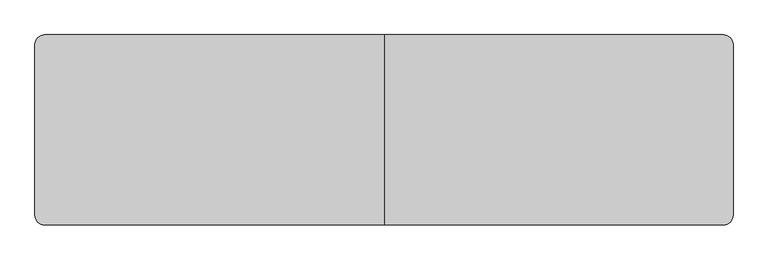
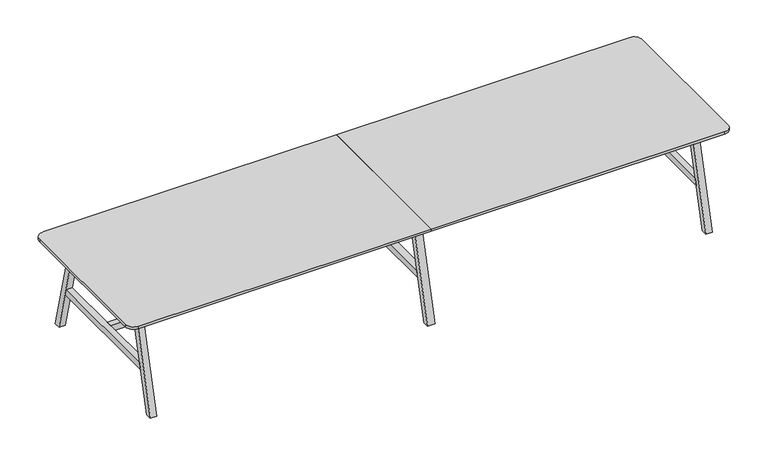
"""IFC4 building model written with IfcOpenShell, lengths in millimetres: furniture geometry, BDG_BossDesign_Tbls_AgentTables6Legs : AGE-DT-6L-4400-1200-3D."""

from ifc_helpers import new_model, si_unit, point, frame, frame_2d, origin, place, context, project, spatial, polyline, circle_curve, trimmed, segment, composite_curve, outline, extrude, source, transform, mapped, element, save


def furniture_8cfd374d(model_context):
    return source(origin(), model_context, "Body", "SweptSolid", [
        extrude(outline(polyline([(600.0, 0.0), (554.9999949, 0.0), (385.5, 660.0), (430.5000051, 660.0), (600.0, 0.0)])), frame((-27.5, 0.0, 0.0), z_axis=(1.0, 0.0, 0.0), x_axis=(0.0, 1.0, 0.0)), (0.0, 0.0, 1.0), 55.0),
        extrude(outline(polyline([(-600.0, 0.0), (-430.5000051, 660.0), (-385.5, 660.0), (-554.9999949, 0.0), (-600.0, 0.0)])), frame((-27.5, 0.0, 0.0), z_axis=(1.0, 0.0, 0.0), x_axis=(0.0, 1.0, 0.0)), (0.0, 0.0, 1.0), 55.0),
        extrude(outline(polyline([(477.9545427, 300.0), (-477.9545427, 300.0), (-466.3977249, 345.0), (466.3977249, 345.0), (477.9545427, 300.0)])), frame((-27.5, 0.0, 0.0), z_axis=(1.0, 0.0, 0.0), x_axis=(0.0, 1.0, 0.0)), (0.0, 0.0, 1.0), 55.0),
        extrude(outline(composite_curve([segment(polyline([(0.0, 600.0), (0.0, -600.0), (-2140.0, -600.0)]), True, "CONTINUOUS"), segment(trimmed(circle_curve(frame_2d((-2140.0, -540.0)), 60.0), [point((-2140.0, -600.0))], [point((-2200.0, -540.0))], False, "CARTESIAN"), True, "CONTINUOUS"), segment(polyline([(-2200.0, -540.0), (-2200.0, 540.0)]), True, "CONTINUOUS"), segment(trimmed(circle_curve(frame_2d((-2140.0, 540.0)), 60.0), [point((-2200.0, 540.0))], [point((-2140.0, 600.0))], False, "CARTESIAN"), True, "CONTINUOUS"), segment(polyline([(-2140.0, 600.0), (0.0, 600.0)]), True, "CONTINUOUS")], self_intersect=False)), frame((0.0, 0.0, 722.0), z_axis=(0.0, 0.0, 1.0), x_axis=(1.0, 0.0, 0.0)), (0.0, 0.0, 1.0), 18.0),
        extrude(outline(polyline([(-466.3977249, 345.0), (466.3977249, 345.0), (477.9545427, 300.0), (-477.9545427, 300.0), (-466.3977249, 345.0)])), frame((2005.0, 0.0, 0.0), z_axis=(1.0, 0.0, 0.0), x_axis=(0.0, 1.0, 0.0)), (0.0, 0.0, 1.0), 45.0),
        extrude(outline(polyline([(600.0, 0.0), (554.9999949, 0.0), (385.5, 660.0), (430.5000051, 660.0), (600.0, 0.0)])), frame((-2050.0, 0.0, 0.0), z_axis=(1.0, 0.0, 0.0), x_axis=(0.0, 1.0, 0.0)), (0.0, 0.0, 1.0), 45.0),
        extrude(outline(polyline([(-600.0, 0.0), (-430.5000051, 660.0), (-385.5, 660.0), (-554.9999949, 0.0), (-600.0, 0.0)])), frame((-2050.0, 0.0, 0.0), z_axis=(1.0, 0.0, 0.0), x_axis=(0.0, 1.0, 0.0)), (0.0, 0.0, 1.0), 45.0),
        extrude(outline(polyline([(-466.3977249, 345.0), (466.3977249, 345.0), (477.9545427, 300.0), (-477.9545427, 300.0), (-466.3977249, 345.0)])), frame((-2050.0, 0.0, 0.0), z_axis=(1.0, 0.0, 0.0), x_axis=(0.0, 1.0, 0.0)), (0.0, 0.0, 1.0), 45.0),
        extrude(outline(polyline([(-426.6006165, 634.973938), (-404.2770691, 722.0), (-379.5, 722.0), (-401.8235474, 634.973938), (-426.6006165, 634.973938)])), frame((-2005.0, 0.0, 0.0), z_axis=(1.0, 0.0, 0.0), x_axis=(0.0, 1.0, 0.0)), (0.0, 0.0, 1.0), 4010.0),
        extrude(outline(polyline([(426.6006165, 634.973938), (401.8235474, 634.973938), (379.5, 722.0), (404.2770691, 722.0), (426.6006165, 634.973938)])), frame((-2005.0, 0.0, 0.0), z_axis=(1.0, 0.0, 0.0), x_axis=(0.0, 1.0, 0.0)), (0.0, 0.0, 1.0), 4010.0),
        extrude(outline(polyline([(599.7999878, 0.0), (554.7999827, 0.0), (385.5, 660.0), (430.5000051, 660.0), (599.7999878, 0.0)])), frame((2005.0, 0.0, 0.0), z_axis=(1.0, 0.0, 0.0), x_axis=(0.0, 1.0, 0.0)), (0.0, 0.0, 1.0), 45.0),
        extrude(outline(polyline([(-599.7999878, 0.0), (-430.5000051, 660.0), (-385.5, 660.0), (-554.7999827, 0.0), (-599.7999878, 0.0)])), frame((2005.0, 0.0, 0.0), z_axis=(1.0, 0.0, 0.0), x_axis=(0.0, 1.0, 0.0)), (0.0, 0.0, 1.0), 45.0),
        extrude(outline(polyline([(-27.5, 22.5000305), (-27.5, -22.5000305), (-2005.0, -22.5000305), (-2005.0, 22.5000305), (-27.5, 22.5000305)])), frame((0.0, 0.0, 300.0), z_axis=(0.0, 0.0, 1.0), x_axis=(1.0, 0.0, 0.0)), (0.0, 0.0, 1.0), 45.0),
        extrude(outline(polyline([(27.5, -22.5000305), (27.5, 22.5000305), (2005.0, 22.5000305), (2005.0, -22.5000305), (27.5, -22.5000305)])), frame((0.0, 0.0, 300.0), z_axis=(0.0, 0.0, 1.0), x_axis=(1.0, 0.0, 0.0)), (0.0, 0.0, 1.0), 45.0),
        extrude(outline(composite_curve([segment(trimmed(circle_curve(frame_2d((2140.0, 540.0)), 60.0), [point((2140.0, 600.0))], [point((2200.0, 540.0))], False, "CARTESIAN"), True, "CONTINUOUS"), segment(polyline([(2200.0, 540.0), (2200.0, -540.0)]), True, "CONTINUOUS"), segment(trimmed(circle_curve(frame_2d((2140.0, -540.0)), 60.0), [point((2200.0, -540.0))], [point((2140.0, -600.0))], False, "CARTESIAN"), True, "CONTINUOUS"), segment(polyline([(2140.0, -600.0), (0.0, -600.0), (0.0, 600.0), (2140.0, 600.0)]), True, "CONTINUOUS")], self_intersect=False)), frame((0.0, 0.0, 722.0), z_axis=(0.0, 0.0, 1.0), x_axis=(1.0, 0.0, 0.0)), (0.0, 0.0, 1.0), 18.0),
    ])


if __name__ == "__main__":
    model = new_model("IFC4")
    model_context = context("Model", 3, world=origin())
    ifc_project = project(units=[si_unit("LENGTHUNIT", "METRE", prefix="MILLI")], contexts=[model_context])
    site = spatial("IfcSite", under=ifc_project)
    building = spatial("IfcBuilding", under=site)
    placement = place(None, origin())
    furniture_shape = furniture_8cfd374d(model_context)
    element("IfcFurniture", 1, ObjectType="BDG_BossDesign_Tbls_AgentTables6Legs : AGE-DT-6L-4400-1200-3D", at=placement, inside=building, context=model_context, shape_type="MappedRepresentation", body=[
        mapped(furniture_shape, transform((0.0, 0.0, 0.0), x_axis=(1.0, 0.0, 0.0), y_axis=(0.0, 1.0, 0.0), z_axis=(0.0, 0.0, 1.0))),
    ])
    save(model, "model.ifc")
